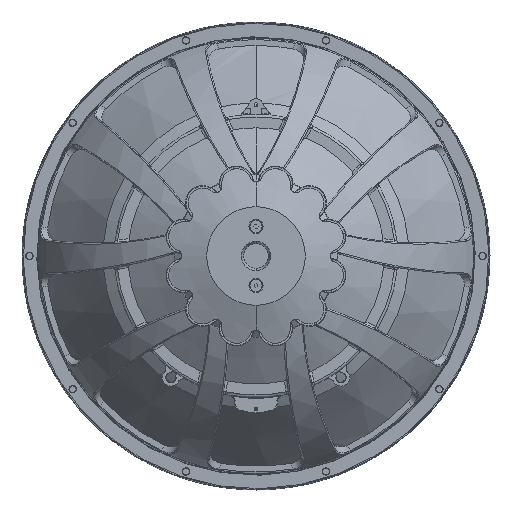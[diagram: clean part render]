
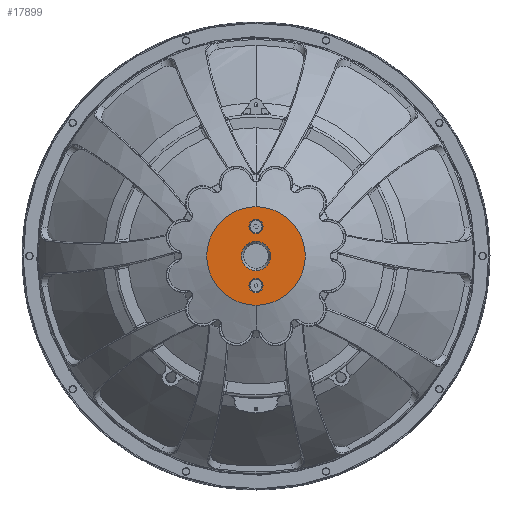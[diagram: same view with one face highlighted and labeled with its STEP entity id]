
A CAD part, front view. The second image highlights one B-rep face of the part: STEP entity #17899.
In plain terms, the highlighted planar face has unit normal (0, -1, 0).
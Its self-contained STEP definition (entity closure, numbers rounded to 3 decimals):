
#646 = CARTESIAN_POINT ( 'NONE',  ( 0., -37., 0. ) ) ;
#1861 = DIRECTION ( 'NONE',  ( 0., -1., 0. ) ) ;
#2377 = CARTESIAN_POINT ( 'NONE',  ( 0., -37., 40.03 ) ) ;
#3196 = DIRECTION ( 'NONE',  ( 0., 0., -1. ) ) ;
#4149 = ORIENTED_EDGE ( 'NONE', *, *, #56926, .T. ) ;
#6921 = EDGE_CURVE ( 'NONE', #31366, #52022, #26278, .T. ) ;
#7723 = EDGE_CURVE ( 'NONE', #56946, #64985, #22455, .T. ) ;
#10040 = ORIENTED_EDGE ( 'NONE', *, *, #6921, .T. ) ;
#10061 = VERTEX_POINT ( 'NONE', #56252 ) ;
#10711 = CIRCLE ( 'NONE', #59102, 40.03 ) ;
#10938 = CIRCLE ( 'NONE', #55562, 5.75 ) ;
#12587 = EDGE_CURVE ( 'NONE', #26246, #71739, #10938, .T. ) ;
#13457 = AXIS2_PLACEMENT_3D ( 'NONE', #34259, #58601, #51420 ) ;
#14398 = DIRECTION ( 'NONE',  ( 0., 0., -1. ) ) ;
#15545 = DIRECTION ( 'NONE',  ( 0., 1., 0. ) ) ;
#16250 = DIRECTION ( 'NONE',  ( 0., 0., -1. ) ) ;
#17429 = CARTESIAN_POINT ( 'NONE',  ( 0., -37., -24. ) ) ;
#17517 = EDGE_LOOP ( 'NONE', ( #10040, #69681 ) ) ;
#17899 = ADVANCED_FACE ( 'NONE', ( #60774, #48774, #31196, #67064 ), #26561, .T. ) ;
#18015 = AXIS2_PLACEMENT_3D ( 'NONE', #76133, #45848, #40282 ) ;
#18629 = AXIS2_PLACEMENT_3D ( 'NONE', #76996, #52723, #22410 ) ;
#19148 = ORIENTED_EDGE ( 'NONE', *, *, #45629, .F. ) ;
#21345 = EDGE_CURVE ( 'NONE', #10061, #39981, #10711, .T. ) ;
#21767 = ORIENTED_EDGE ( 'NONE', *, *, #21345, .F. ) ;
#22410 = DIRECTION ( 'NONE',  ( 0., 0., -1. ) ) ;
#22455 = CIRCLE ( 'NONE', #63233, 11.814 ) ;
#26246 = VERTEX_POINT ( 'NONE', #73553 ) ;
#26278 = CIRCLE ( 'NONE', #18629, 5.75 ) ;
#26561 = PLANE ( 'NONE',  #60061 ) ;
#30203 = CARTESIAN_POINT ( 'NONE',  ( 0., -37., -29.75 ) ) ;
#31196 = FACE_BOUND ( 'NONE', #59104, .T. ) ;
#31341 = DIRECTION ( 'NONE',  ( 0., 1., 0. ) ) ;
#31366 = VERTEX_POINT ( 'NONE', #42931 ) ;
#33097 = DIRECTION ( 'NONE',  ( 0., 1., 0. ) ) ;
#34259 = CARTESIAN_POINT ( 'NONE',  ( 0., -37., 24. ) ) ;
#36143 = EDGE_CURVE ( 'NONE', #71739, #26246, #72257, .T. ) ;
#37700 = ORIENTED_EDGE ( 'NONE', *, *, #36143, .T. ) ;
#38533 = CARTESIAN_POINT ( 'NONE',  ( -49.81, -37., 37.873 ) ) ;
#39981 = VERTEX_POINT ( 'NONE', #2377 ) ;
#40282 = DIRECTION ( 'NONE',  ( 0., 0., -1. ) ) ;
#42239 = CARTESIAN_POINT ( 'NONE',  ( 0., -37., 11.814 ) ) ;
#42931 = CARTESIAN_POINT ( 'NONE',  ( 0., -37., 18.25 ) ) ;
#43909 = CARTESIAN_POINT ( 'NONE',  ( 0., -37., -24. ) ) ;
#45629 = EDGE_CURVE ( 'NONE', #39981, #10061, #57598, .T. ) ;
#45848 = DIRECTION ( 'NONE',  ( 0., 1., 0. ) ) ;
#45887 = CARTESIAN_POINT ( 'NONE',  ( 0., -37., -11.814 ) ) ;
#47801 = CARTESIAN_POINT ( 'NONE',  ( 0., -37., 29.75 ) ) ;
#48664 = EDGE_LOOP ( 'NONE', ( #37700, #54821 ) ) ;
#48774 = FACE_BOUND ( 'NONE', #48664, .T. ) ;
#49629 = EDGE_CURVE ( 'NONE', #52022, #31366, #54234, .T. ) ;
#51420 = DIRECTION ( 'NONE',  ( 0., 0., -1. ) ) ;
#51785 = DIRECTION ( 'NONE',  ( 0., 1., 0. ) ) ;
#52022 = VERTEX_POINT ( 'NONE', #47801 ) ;
#52448 = AXIS2_PLACEMENT_3D ( 'NONE', #69745, #15545, #3196 ) ;
#52723 = DIRECTION ( 'NONE',  ( 0., 1., 0. ) ) ;
#54157 = DIRECTION ( 'NONE',  ( 0., 1., 0. ) ) ;
#54234 = CIRCLE ( 'NONE', #13457, 5.75 ) ;
#54821 = ORIENTED_EDGE ( 'NONE', *, *, #12587, .T. ) ;
#55562 = AXIS2_PLACEMENT_3D ( 'NONE', #17429, #54157, #16250 ) ;
#56252 = CARTESIAN_POINT ( 'NONE',  ( 0., -37., -40.03 ) ) ;
#56926 = EDGE_CURVE ( 'NONE', #64985, #56946, #76566, .T. ) ;
#56946 = VERTEX_POINT ( 'NONE', #42239 ) ;
#57598 = CIRCLE ( 'NONE', #52448, 40.03 ) ;
#58601 = DIRECTION ( 'NONE',  ( 0., 1., 0. ) ) ;
#59102 = AXIS2_PLACEMENT_3D ( 'NONE', #646, #31341, #73981 ) ;
#59104 = EDGE_LOOP ( 'NONE', ( #4149, #75491 ) ) ;
#60061 = AXIS2_PLACEMENT_3D ( 'NONE', #38533, #1861, #75570 ) ;
#60774 = FACE_BOUND ( 'NONE', #17517, .T. ) ;
#63233 = AXIS2_PLACEMENT_3D ( 'NONE', #70092, #51785, #70894 ) ;
#64985 = VERTEX_POINT ( 'NONE', #45887 ) ;
#67064 = FACE_OUTER_BOUND ( 'NONE', #74970, .T. ) ;
#69681 = ORIENTED_EDGE ( 'NONE', *, *, #49629, .T. ) ;
#69745 = CARTESIAN_POINT ( 'NONE',  ( 0., -37., 0. ) ) ;
#70092 = CARTESIAN_POINT ( 'NONE',  ( 0., -37., 0. ) ) ;
#70894 = DIRECTION ( 'NONE',  ( 0., 0., -1. ) ) ;
#71739 = VERTEX_POINT ( 'NONE', #30203 ) ;
#72257 = CIRCLE ( 'NONE', #73500, 5.75 ) ;
#73500 = AXIS2_PLACEMENT_3D ( 'NONE', #43909, #33097, #14398 ) ;
#73553 = CARTESIAN_POINT ( 'NONE',  ( 0., -37., -18.25 ) ) ;
#73981 = DIRECTION ( 'NONE',  ( 0., 0., -1. ) ) ;
#74970 = EDGE_LOOP ( 'NONE', ( #19148, #21767 ) ) ;
#75491 = ORIENTED_EDGE ( 'NONE', *, *, #7723, .T. ) ;
#75570 = DIRECTION ( 'NONE',  ( 0., 0., -1. ) ) ;
#76133 = CARTESIAN_POINT ( 'NONE',  ( 0., -37., 0. ) ) ;
#76566 = CIRCLE ( 'NONE', #18015, 11.814 ) ;
#76996 = CARTESIAN_POINT ( 'NONE',  ( 0., -37., 24. ) ) ;
